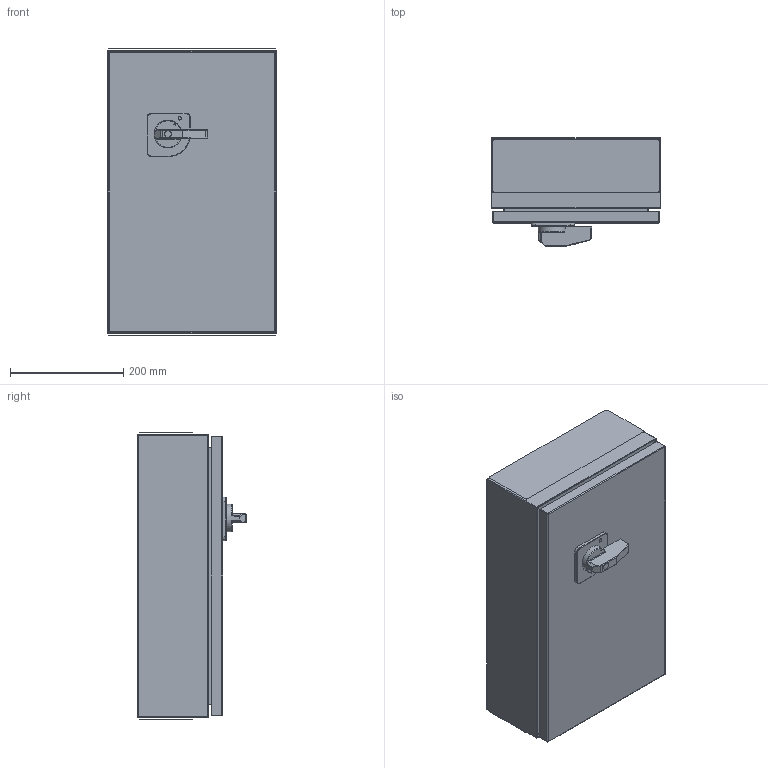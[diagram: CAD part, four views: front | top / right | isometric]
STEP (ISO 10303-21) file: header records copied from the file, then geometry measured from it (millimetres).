
FILE_DESCRIPTION(/* description */ (''),/* implementation_level */ '2;1');
FILE_NAME(/* name */ '4003039.stp',/* time_stamp */ '2017-04-12T21:15:40+02:00',/* author */ (''),/* organization */ (''),/* preprocessor_version */ 'ST-DEVELOPER v16',/* originating_system */ 'SIEMENS PLM Software NX 11.0',/* authorisation */ '');
FILE_SCHEMA (('AUTOMOTIVE_DESIGN { 1 0 10303 214 3 1 1 1 }'));
Length unit declared in the file: millimetre
Products named in the file (1): 4003039_LINKEDEXT_jt
Bounding box: 300 x 191.5 x 506 mm (x, y, z)
Surface area: 615592.4 mm2 (no closed solid volume)
Topology: 0 solids, 25 shells, 118 faces, 403 edges, 295 vertices
Faces by surface type: plane 53, cylinder 50, bspline 8, torus 6, cone 1
Full cylindrical faces by diameter (mm): 8 x4, 17.2 x1
Entity records: 5815 total; most frequent: CARTESIAN_POINT 1950, DIRECTION 630, ORIENTED_EDGE 544, EDGE_CURVE 397, VERTEX_POINT 294, LINE 214, VECTOR 214, AXIS2_PLACEMENT_3D 208
